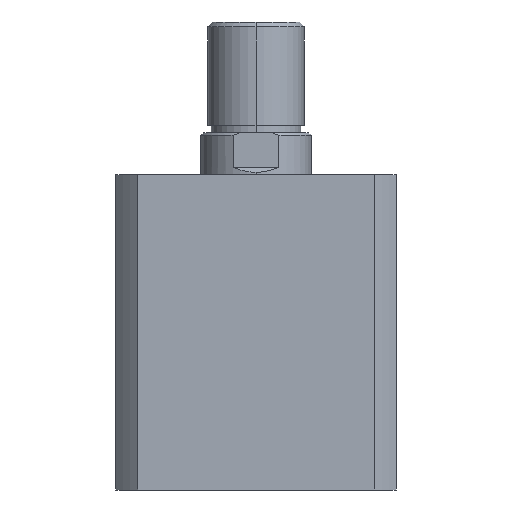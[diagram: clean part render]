
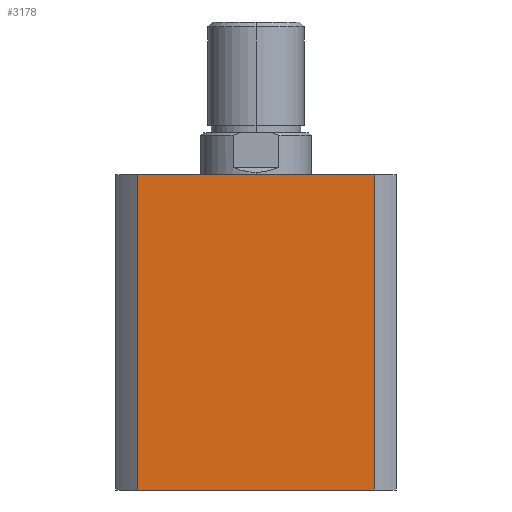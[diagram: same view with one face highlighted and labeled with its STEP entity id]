
A CAD part, left-side view. The second image highlights one B-rep face of the part: STEP entity #3178.
In plain terms, the highlighted planar face has unit normal (-1, 0, 0).
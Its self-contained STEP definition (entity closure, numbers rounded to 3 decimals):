
#437 = CARTESIAN_POINT ( 'NONE',  ( -57., 0., 0. ) ) ;
#444 = DIRECTION ( 'NONE',  ( 0., -1., 0. ) ) ;
#593 = CARTESIAN_POINT ( 'NONE',  ( -57., 0., 128. ) ) ;
#600 = CARTESIAN_POINT ( 'NONE',  ( -57., -47.971, 128. ) ) ;
#605 = DIRECTION ( 'NONE',  ( 0., 0., -1. ) ) ;
#610 = DIRECTION ( 'NONE',  ( 0., 0., -1. ) ) ;
#611 = CARTESIAN_POINT ( 'NONE',  ( -57., 47.971, 128. ) ) ;
#616 = DIRECTION ( 'NONE',  ( 0., -1., 0. ) ) ;
#960 = EDGE_LOOP ( 'NONE', ( #4970, #4969, #4968, #4967 ) ) ;
#976 = VERTEX_POINT ( 'NONE', #2312 ) ;
#992 = VERTEX_POINT ( 'NONE', #2284 ) ;
#1024 = VERTEX_POINT ( 'NONE', #2245 ) ;
#1408 = EDGE_CURVE ( 'NONE', #4089, #1024, #1606, .T. ) ;
#1453 = EDGE_CURVE ( 'NONE', #992, #4089, #1662, .T. ) ;
#1456 = EDGE_CURVE ( 'NONE', #976, #1024, #1661, .T. ) ;
#1458 = EDGE_CURVE ( 'NONE', #992, #976, #1667, .T. ) ;
#1606 = LINE ( 'NONE', #437, #1610 ) ;
#1610 = VECTOR ( 'NONE', #444, 1000. ) ;
#1661 = LINE ( 'NONE', #600, #1669 ) ;
#1662 = LINE ( 'NONE', #611, #1665 ) ;
#1665 = VECTOR ( 'NONE', #610, 1000. ) ;
#1667 = LINE ( 'NONE', #593, #1672 ) ;
#1669 = VECTOR ( 'NONE', #605, 1000. ) ;
#1672 = VECTOR ( 'NONE', #616, 1000. ) ;
#1985 = AXIS2_PLACEMENT_3D ( 'NONE', #4328, #4321, #4320 ) ;
#2245 = CARTESIAN_POINT ( 'NONE',  ( -57., -47.971, 0. ) ) ;
#2284 = CARTESIAN_POINT ( 'NONE',  ( -57., 47.971, 128. ) ) ;
#2312 = CARTESIAN_POINT ( 'NONE',  ( -57., -47.971, 128. ) ) ;
#3178 = ADVANCED_FACE ( 'NONE', ( #3395 ), #4323, .F. ) ;
#3395 = FACE_OUTER_BOUND ( 'NONE', #960, .T. ) ;
#4089 = VERTEX_POINT ( 'NONE', #5108 ) ;
#4320 = DIRECTION ( 'NONE',  ( 0., 0., -1. ) ) ;
#4321 = DIRECTION ( 'NONE',  ( 1., 0., 0. ) ) ;
#4323 = PLANE ( 'NONE',  #1985 ) ;
#4328 = CARTESIAN_POINT ( 'NONE',  ( -57., 0., 128. ) ) ;
#4967 = ORIENTED_EDGE ( 'NONE', *, *, #1453, .T. ) ;
#4968 = ORIENTED_EDGE ( 'NONE', *, *, #1458, .F. ) ;
#4969 = ORIENTED_EDGE ( 'NONE', *, *, #1456, .F. ) ;
#4970 = ORIENTED_EDGE ( 'NONE', *, *, #1408, .T. ) ;
#5108 = CARTESIAN_POINT ( 'NONE',  ( -57., 47.971, 0. ) ) ;
